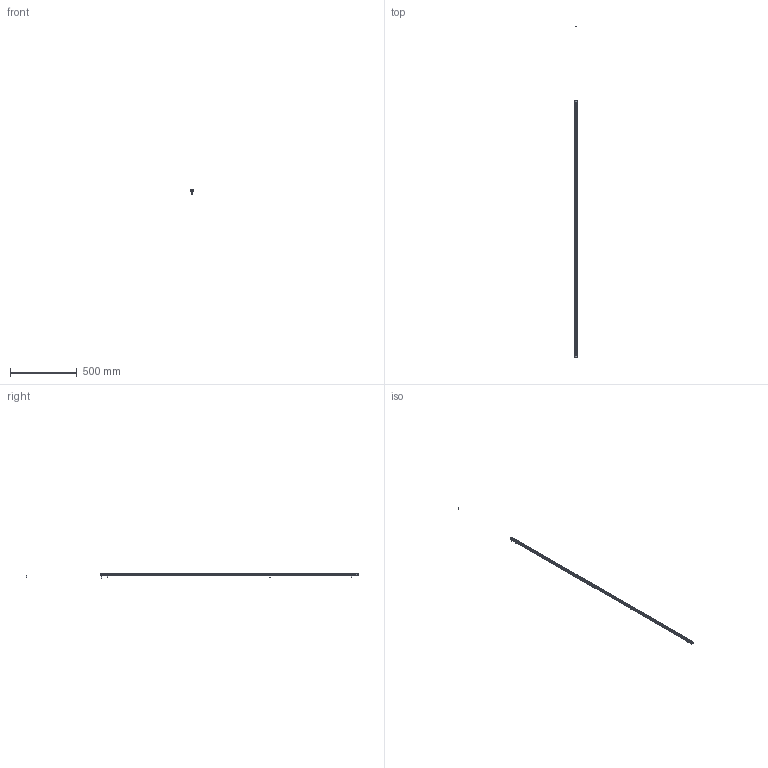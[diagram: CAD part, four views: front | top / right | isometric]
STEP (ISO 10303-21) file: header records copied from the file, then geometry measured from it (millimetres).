
FILE_DESCRIPTION (( 'STEP AP214' ), '1' );
FILE_NAME ('ILGA-B-K1a-1920mm.STEP', '2026-04-24T22:53:33', ( '' ), ( '' ), 'SwSTEP 2.0', 'SolidWorks 2025', '' );
FILE_SCHEMA (( 'AUTOMOTIVE_DESIGN' ));
Length unit declared in the file: millimetre
Products named in the file (1): ILGA-B-K1a-1920mm
Bounding box: 22.4 x 2479.49 x 34.2 mm (x, y, z)
Volume: 144453 mm3; surface area: 260499.9 mm2
Topology: 13 solids, 13 shells, 728 faces, 1866 edges, 1142 vertices
Faces by surface type: plane 314, cylinder 270, cone 60, torus 44, bspline 24, sphere 16
Entity records: 30387 total; most frequent: CARTESIAN_POINT 4637, DIRECTION 3846, ORIENTED_EDGE 3644, EDGE_CURVE 1822, AXIS2_PLACEMENT_3D 1439, VERTEX_POINT 1142, VECTOR 968, LINE 968
